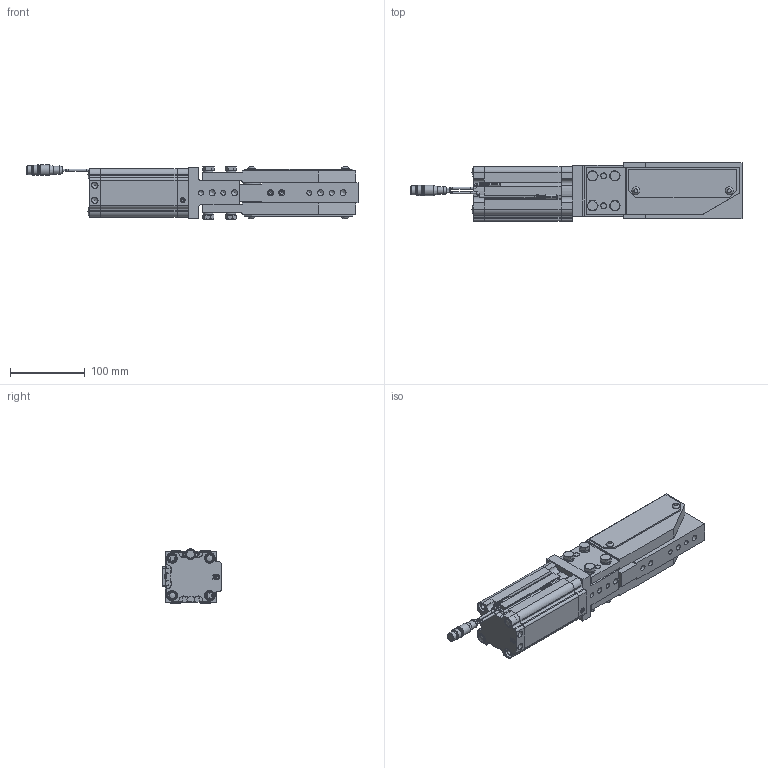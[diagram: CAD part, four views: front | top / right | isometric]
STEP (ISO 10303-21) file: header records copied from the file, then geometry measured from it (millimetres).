
FILE_DESCRIPTION(/* description */ ('PART EJECTOR'),/* implementation_level */ '2;1');
FILE_NAME(/* name */ 'C:\Users\rcarver\Desktop\MPE\MPE030A300AL01A000-RETRACTED.stp',/* time_stamp */ '2016-05-25T10:40:18-04:00',/* author */ ('rcarver'),/* organization */ (''),/* preprocessor_version */ 'ST-DEVELOPER v16.5',/* originating_system */ 'Autodesk Inventor 2017',/* authorisation */ '');
FILE_SCHEMA (('AUTOMOTIVE_DESIGN { 1 0 10303 214 3 1 1 }'));
Products named in the file (42): MPE30L01; WCW2148E02-075; MPE30E03N; MPE30E03G; MPE30E09; MPE30E06; MPE30E07; MPE30E08; MPE30E12; WCW2148E04; WCW2148E01; FEF-405-1; GSI-1214-16; M8X1.25-25 HEX; NL8; MPE30E16; 0.500-20 HEXJAMNUT; 0.062-27 NPT PLUG; PLH005A; MA1500x2.00DIA; MC0750X1000-125N; OR-032-RADIAL; OR-011-FACE; TSP-326BN70; TSR-075BN70; TSI-1214-06; M5X0.8-120 SHCS; 0.500X1.000 DOWEL; NL5SP; MPS L0 SWITCH ASSY-50; MPC_BIM-UNT-Cable-50 STK; MPS_BIM-UNT-Cable2; connector; M6X1-135 SHCS; NL6; 0.50ID-SAE; MOR-2.0X016.0bn70; 8mmX20 ; MPE30E14; SH-50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
Assembly tree (78 placements, depth 3):
  MPE30L01
    WCW2148E02-075
    MPE30E03N
    MPE30E03G
    MPE30E09
    MPE30E06  x2
    MPE30E07
    MPE30E08
    MPE30E12  x2
    WCW2148E04
    WCW2148E01
    FEF-405-1  x2
    GSI-1214-16  x2
    M8X1.25-25 HEX  x8
    NL8  x8
    MPE30E16  x4
    0.500-20 HEXJAMNUT
    0.062-27 NPT PLUG
    PLH005A  x2
    MA1500x2.00DIA
    MC0750X1000-125N  x2
    OR-032-RADIAL  x2
    OR-011-FACE  x2
    TSP-326BN70
    TSR-075BN70
    TSI-1214-06
    M5X0.8-120 SHCS  x2
    0.500X1.000 DOWEL
    NL5SP  x2
    MPS L0 SWITCH ASSY-50
      MPC_BIM-UNT-Cable-50 STK
      MPS_BIM-UNT-Cable2
      connector
    M6X1-135 SHCS  x2
    NL6  x2
    0.50ID-SAE
    MOR-2.0X016.0bn70
    8mmX20   x2
    MPE30E14  x2
    SH-50  x4
    MPE30E15
    M6X1-10 BHCS  x4
Bounding box: 443.95 x 78 x 72.52 mm (x, y, z)
Volume: 1224065.7 mm3; surface area: 397589.6 mm2
Topology: 77 solids, 159 shells, 1399 faces, 3363 edges, 2311 vertices
Faces by surface type: plane 689, cylinder 466, cone 177, bspline 39, torus 26, sphere 2
Full cylindrical faces by diameter (mm): 0.01 x1, 1.191 x4, 1.9 x2, 2.6 x2, 3.175 x8, 3.2 x6, 4 x2, 4.134 x2, 4.917 x12, 4.978 x4, 5 x6, 5.4 x2, 5.944 x1, 6 x9, 6.5 x16, 6.647 x14, 7.5 x4, 7.95 x2, 8 x29, 8.05 x2, 8.5 x12, 8.7 x8, 9.6 x1, 10 x2, 10.2 x1, 10.49 x1, 10.5 x4, 10.8 x2, 10.9 x2, 11.201 x3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
Entity records: 29363 total; most frequent: CARTESIAN_POINT 5823, DIRECTION 4841, ORIENTED_EDGE 3860, EDGE_CURVE 1977, AXIS2_PLACEMENT_3D 1896, EDGE_LOOP 1531, VERTEX_POINT 1486, LINE 1049
